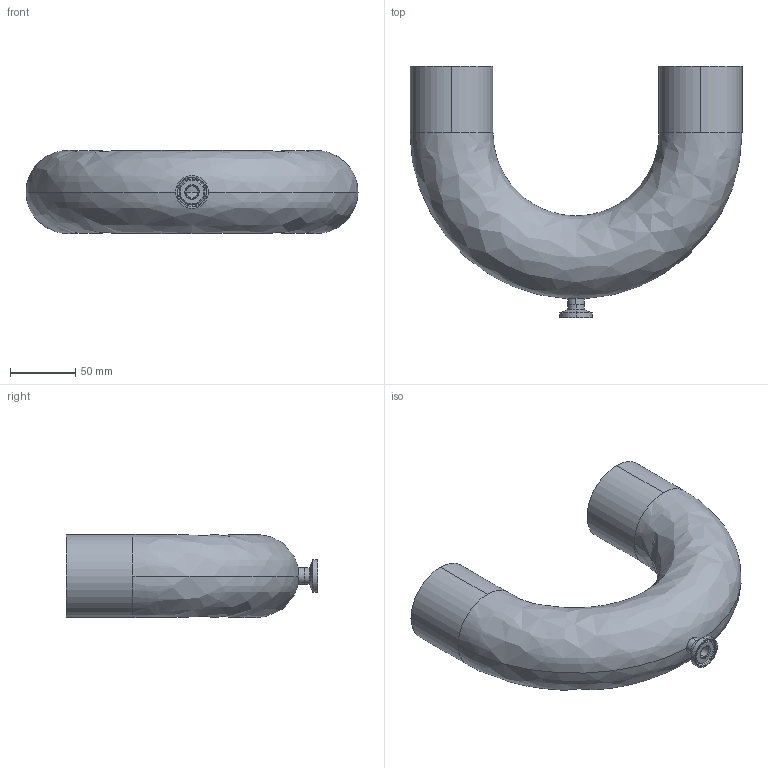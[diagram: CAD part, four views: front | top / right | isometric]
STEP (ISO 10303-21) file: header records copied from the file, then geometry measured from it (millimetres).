
FILE_DESCRIPTION (( 'STEP AP214' ), '1' );
FILE_NAME ('TE2UBWWC6L2.5x.5-...STEP', '2016-05-25T05:18:18', ( 'eran' ), ( '' ), 'SwSTEP 2.0', 'SolidWorks 2016', '' );
FILE_SCHEMA (( 'AUTOMOTIVE_DESIGN' ));
Length unit declared in the file: millimetre
Products named in the file (1): TE2UBWWC6L2.5x.5-..
Bounding box: 254 x 192.1 x 63.5 mm (x, y, z)
Volume: 130579.1 mm3; surface area: 158402.2 mm2
Topology: 2 solids, 2 shells, 42 faces, 100 edges, 62 vertices
Faces by surface type: cylinder 20, bspline 12, plane 6, cone 4
Entity records: 1559 total; most frequent: CARTESIAN_POINT 549, DIRECTION 214, ORIENTED_EDGE 200, EDGE_CURVE 100, AXIS2_PLACEMENT_3D 95, CIRCLE 64, VERTEX_POINT 62, EDGE_LOOP 48
